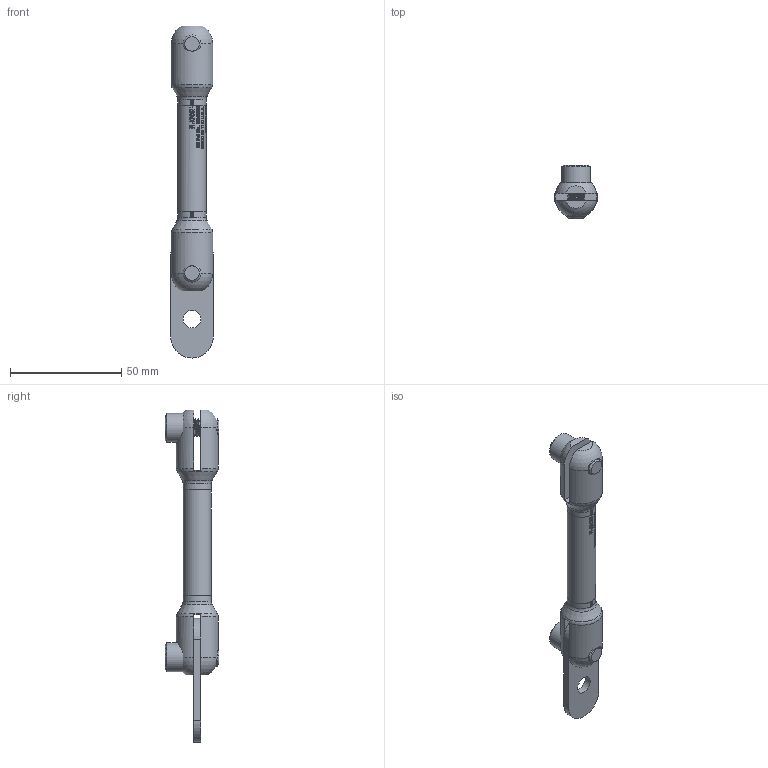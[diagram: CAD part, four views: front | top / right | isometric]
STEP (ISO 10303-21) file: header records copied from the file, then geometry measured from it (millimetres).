
FILE_DESCRIPTION(/* description */ (''),/* implementation_level */ '2;1');
FILE_NAME(/* name */ 'C:\Users\Doug Biddinger\Desktop\PL-KPOST-BK\PL-KPOST-BK.stp',/* time_stamp */ '2019-08-29T17:24:47-04:00',/* author */ ('Doug Biddinger'),/* organization */ (''),/* preprocessor_version */ 'ST-DEVELOPER v18',/* originating_system */ 'Autodesk Inventor 2020',/* authorisation */ '');
FILE_SCHEMA (('CONFIG_CONTROL_DESIGN'));
Length unit declared in the file: inch
Products named in the file (5): PL-KEIFER; 60232; 60233; 60054; 60040
Assembly tree (6 placements, depth 2):
  PL-KEIFER
    60232
    60233
    60054  x2
    60040  x2
Bounding box: 19.05 x 24 x 149.01 mm (x, y, z)
Volume: 23005.2 mm3; surface area: 16402.4 mm2
Topology: 8 solids, 8 shells, 968 faces, 2628 edges, 1756 vertices
Faces by surface type: plane 427, bspline 379, cylinder 140, torus 10, cone 8, sphere 4
Full cylindrical faces by diameter (mm): 6.369 x4, 6.655 x2, 7.912 x2, 7.95 x1, 7.976 x2, 8 x26, 8.357 x2, 12.7 x3, 13 x2
Entity records: 39799 total; most frequent: CARTESIAN_POINT 19991, ORIENTED_EDGE 4650, DIRECTION 3030, EDGE_CURVE 2325, VERTEX_POINT 1552, LINE 1104, VECTOR 1104, AXIS2_PLACEMENT_3D 963
